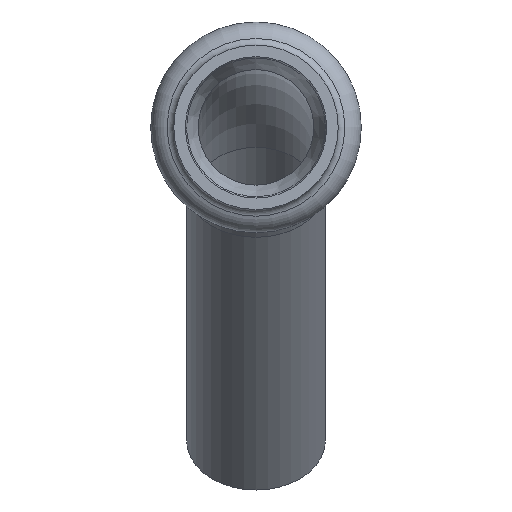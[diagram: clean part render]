
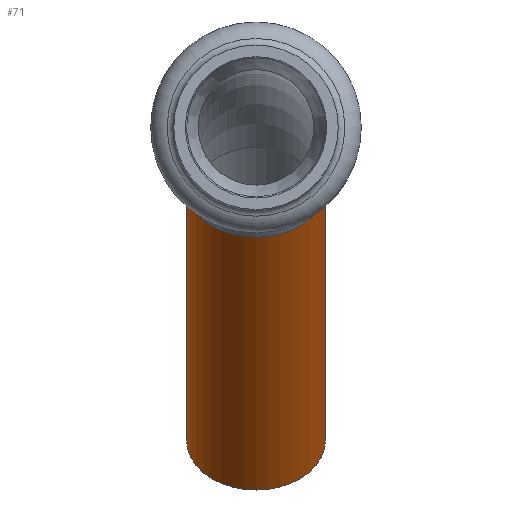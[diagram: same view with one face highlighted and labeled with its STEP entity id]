
A CAD part, front view. The second image highlights one B-rep face of the part: STEP entity #71.
In plain terms, the highlighted cylindrical face has radius 7.5 mm (diameter 15 mm), a full revolution.
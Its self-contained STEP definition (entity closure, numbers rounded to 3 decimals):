
#71=ADVANCED_FACE('',(#236,#238),#240,.T.);
#236=FACE_OUTER_BOUND('',#237,.T.);
#237=EDGE_LOOP('',(#305));
#238=FACE_OUTER_BOUND('',#239,.T.);
#239=EDGE_LOOP('',(#306));
#240=CYLINDRICAL_SURFACE('',#241,7.5);
#241=AXIS2_PLACEMENT_3D('',#242,#243,#244);
#242=CARTESIAN_POINT('',(0.,44.59,-6.59));
#243=DIRECTION('',(0.,0.707,-0.707));
#244=DIRECTION('',(-1.,0.,0.));
#305=ORIENTED_EDGE('',*,*,#333,.F.);
#306=ORIENTED_EDGE('',*,*,#335,.T.);
#333=EDGE_CURVE('',#378,#378,#379,.T.);
#335=EDGE_CURVE('',#382,#382,#383,.T.);
#378=VERTEX_POINT('',#488);
#379=CIRCLE('',#489,7.5);
#382=VERTEX_POINT('',#498);
#383=CIRCLE('',#499,7.5);
#488=CARTESIAN_POINT('',(-7.5,71.941,-33.941));
#489=AXIS2_PLACEMENT_3D('',#490,#491,#492);
#490=CARTESIAN_POINT('',(0.,71.941,-33.941));
#491=DIRECTION('',(0.,0.707,-0.707));
#492=DIRECTION('',(-1.,0.,0.));
#498=CARTESIAN_POINT('',(-7.5,44.59,-6.59));
#499=AXIS2_PLACEMENT_3D('',#500,#501,#502);
#500=CARTESIAN_POINT('',(0.,44.59,-6.59));
#501=DIRECTION('',(0.,0.707,-0.707));
#502=DIRECTION('',(-1.,0.,0.));
